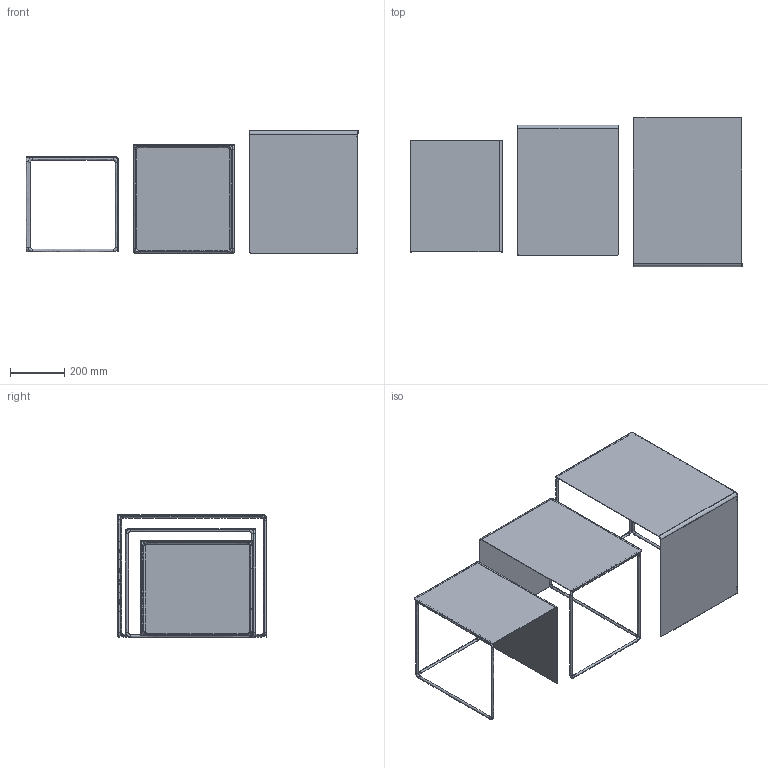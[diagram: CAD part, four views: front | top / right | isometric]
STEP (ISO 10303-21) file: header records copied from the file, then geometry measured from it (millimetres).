
FILE_DESCRIPTION(/* description */ (''),/* implementation_level */ '2;1');
FILE_NAME(/* name */ 'C9DNIA~D',/* time_stamp */ '2018-04-03T16:41:27+02:00',/* author */ (''),/* organization */ (''),/* preprocessor_version */ 'ST-DEVELOPER v15',/* originating_system */ '',/* authorisation */ '');
FILE_SCHEMA (('AUTOMOTIVE_DESIGN'));
Length unit declared in the file: millimetre
Products named in the file (1): Document
Bounding box: 1222.04 x 550 x 450.51 mm (x, y, z)
Volume: 3020081.3 mm3; surface area: 2423257.3 mm2
Topology: 11 solids, 11 shells, 170 faces, 364 edges, 200 vertices
Faces by surface type: bspline 170
Entity records: 12769 total; most frequent: CARTESIAN_POINT 8382, ORIENTED_EDGE 728, PCURVE 728, DEFINITIONAL_REPRESENTATION 728, B_SPLINE_CURVE_WITH_KNOTS 704, SURFACE_CURVE 364, EDGE_CURVE 364, VERTEX_POINT 200
